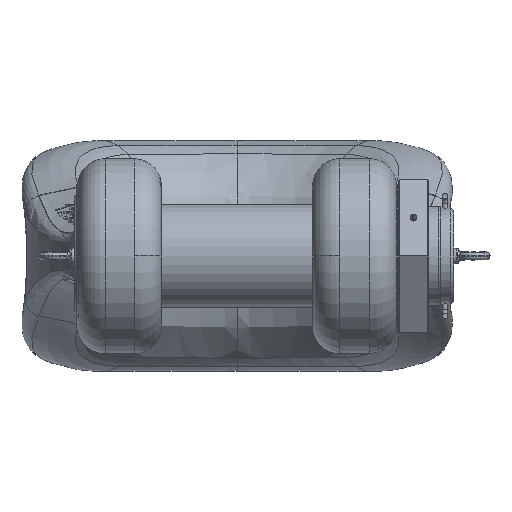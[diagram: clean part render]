
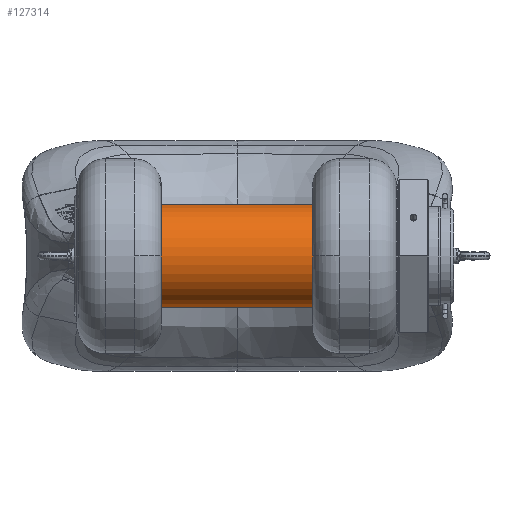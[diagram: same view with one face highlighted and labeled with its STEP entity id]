
A CAD part, front view. The second image highlights one B-rep face of the part: STEP entity #127314.
In plain terms, the highlighted cylindrical face has radius 150 mm (diameter 300 mm), a partial arc.
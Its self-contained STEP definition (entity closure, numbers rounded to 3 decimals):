
#115757=DIRECTION('',(0.,0.,-1.));
#115758=VECTOR('',#115757,905.);
#115759=CARTESIAN_POINT('',(150.,0.,-7.));
#115760=LINE('',#115759,#115758);
#120685=CARTESIAN_POINT('',(0.,0.,-7.));
#120686=DIRECTION('',(0.,0.,1.));
#120687=DIRECTION('',(-1.,0.,0.));
#120688=AXIS2_PLACEMENT_3D('',#120685,#120686,#120687);
#120693=CARTESIAN_POINT('',(0.,0.,-912.));
#120694=DIRECTION('',(0.,0.,-1.));
#120695=DIRECTION('',(1.,0.,0.));
#120696=AXIS2_PLACEMENT_3D('',#120693,#120694,#120695);
#120701=DIRECTION('',(0.,0.,-1.));
#120702=VECTOR('',#120701,905.);
#120703=CARTESIAN_POINT('',(-150.,0.,-7.));
#120704=LINE('',#120703,#120702);
#121224=CARTESIAN_POINT('',(150.,0.,-912.));
#121225=CARTESIAN_POINT('',(-150.,0.,-912.));
#121226=VERTEX_POINT('',#121224);
#121227=VERTEX_POINT('',#121225);
#121236=CARTESIAN_POINT('',(150.,0.,-7.));
#121238=VERTEX_POINT('',#121236);
#121244=CARTESIAN_POINT('',(-150.,0.,-7.));
#121245=VERTEX_POINT('',#121244);
#127303=CARTESIAN_POINT('',(0.,0.,0.));
#127304=DIRECTION('',(0.,0.,1.));
#127305=DIRECTION('',(1.,0.,0.));
#127306=AXIS2_PLACEMENT_3D('',#127303,#127304,#127305);
#127307=CYLINDRICAL_SURFACE('',#127306,150.);
#127308=ORIENTED_EDGE('',*,*,#121916,.T.);
#127309=ORIENTED_EDGE('',*,*,#121874,.T.);
#127310=ORIENTED_EDGE('',*,*,#121828,.T.);
#127311=ORIENTED_EDGE('',*,*,#121871,.F.);
#127312=EDGE_LOOP('',(#127308,#127309,#127310,#127311));
#127313=FACE_OUTER_BOUND('',#127312,.F.);
#127314=ADVANCED_FACE('',(#127313),#127307,.T.);
#120689=CIRCLE('',#120688,150.);
#120697=CIRCLE('',#120696,150.);
#121828=EDGE_CURVE('',#121226,#121227,#120697,.T.);
#121871=EDGE_CURVE('',#121245,#121227,#120704,.T.);
#121874=EDGE_CURVE('',#121238,#121226,#115760,.T.);
#121916=EDGE_CURVE('',#121245,#121238,#120689,.T.);
